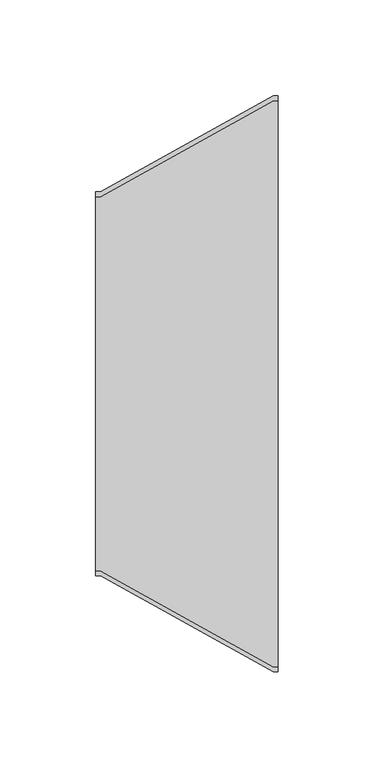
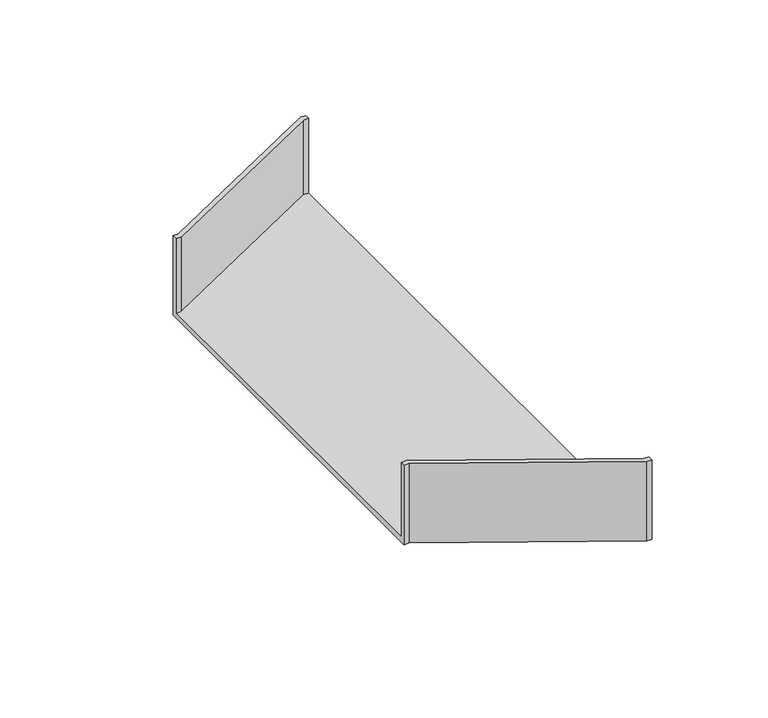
"""IFC4 building model written with IfcOpenShell, lengths in millimetres: cable carrier fitting geometry, BAKS_Reducer : RK(S/L/P)L_H42."""

from ifc_helpers import new_model, si_unit, origin, place, context, project, spatial, faceted_brep, source, transform, mapped, element, save


def cable_carrier_fitting_d4aa8912(model_context):
    return source(origin(), model_context, "Body", "Brep", [
        faceted_brep([(0.0, -100.0, -21.0), (0.0, -100.0, 21.0), (0.0, -97.46, 21.0), (0.0, -97.46, -18.46), (0.0, 97.46, -18.46), (0.0, 97.46, 21.0), (0.0, 100.0, 21.0), (0.0, 100.0, -21.0), (95.0, -150.0, -21.0), (95.0, 150.0, -21.0), (95.0, 150.0, 21.0), (95.0, 147.46, 21.0), (95.0, 147.46, -18.46), (95.0, -147.46, -18.46), (95.0, -147.46, 21.0), (95.0, -150.0, 21.0), (2.5, -100.0, -21.0), (2.5, -100.0, 21.0), (92.5, -150.0, 21.0), (92.5, -147.46, 21.0), (2.5, -97.46, 21.0), (2.5, -97.46, -18.46), (92.5, -147.46, -18.46), (92.5, 147.46, -18.46), (2.5, 97.46, -18.46), (2.5, 97.46, 21.0), (92.5, 147.46, 21.0), (92.5, 150.0, 21.0), (2.5, 100.0, 21.0), (2.5, 100.0, -21.0), (92.5, 150.0, -21.0), (92.5, -150.0, -21.0)], [[[0, 1, 2, 3, 4, 5, 6, 7]], [[8, 9, 10, 11, 12, 13, 14, 15]], [[1, 0, 16, 17]], [[2, 1, 17, 18, 15, 14, 19, 20]], [[3, 2, 20, 21]], [[4, 3, 21, 22, 13, 12, 23, 24]], [[5, 4, 24, 25]], [[6, 5, 25, 26, 11, 10, 27, 28]], [[7, 6, 28, 29]], [[0, 7, 29, 30, 9, 8, 31, 16]], [[8, 15, 18, 31]], [[14, 13, 22, 19]], [[12, 11, 26, 23]], [[10, 9, 30, 27]], [[30, 29, 28, 27]], [[26, 25, 24, 23]], [[22, 21, 20, 19]], [[16, 31, 18, 17]]]),
    ])


if __name__ == "__main__":
    model = new_model("IFC4")
    model_context = context("Model", 3, world=origin())
    ifc_project = project(units=[si_unit("LENGTHUNIT", "METRE", prefix="MILLI")], contexts=[model_context])
    site = spatial("IfcSite", under=ifc_project)
    building = spatial("IfcBuilding", under=site)
    placement = place(None, origin())
    cable_carrier_fitting_shape = cable_carrier_fitting_d4aa8912(model_context)
    element("IfcCableCarrierFitting", 1, ObjectType="BAKS_Reducer : RK(S/L/P)L_H42", at=placement, inside=building, context=model_context, shape_type="MappedRepresentation", body=[
        mapped(cable_carrier_fitting_shape, transform((0.0, 0.0, 0.0), x_axis=(1.0, 0.0, 0.0), y_axis=(0.0, 1.0, 0.0), z_axis=(0.0, 0.0, 1.0))),
    ])
    save(model, "model.ifc")
